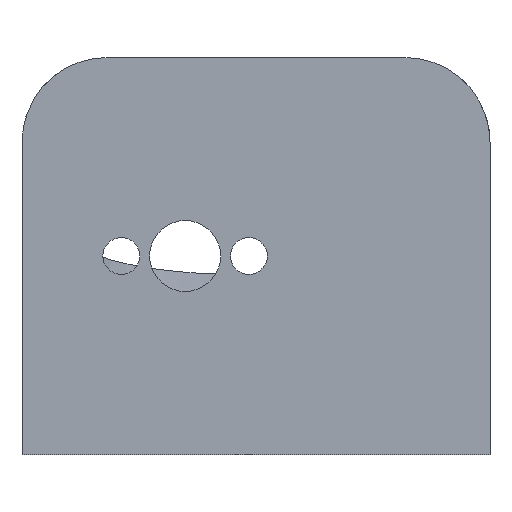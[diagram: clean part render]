
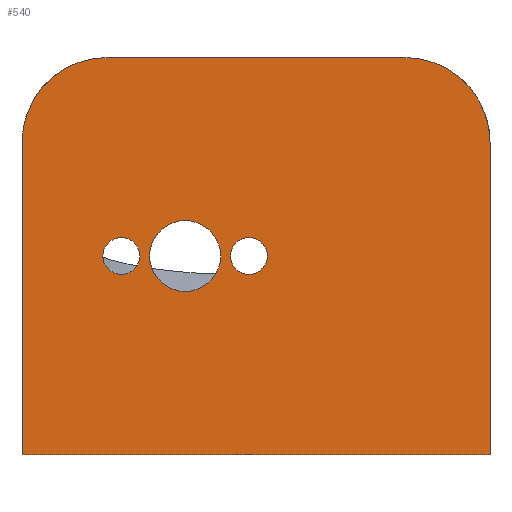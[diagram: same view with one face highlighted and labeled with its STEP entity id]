
A CAD part, front view. The second image highlights one B-rep face of the part: STEP entity #540.
In plain terms, the highlighted planar face has unit normal (0, -1, 0).
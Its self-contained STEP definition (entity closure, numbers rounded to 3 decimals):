
#40=FACE_BOUND('',#89,.T.);
#41=FACE_BOUND('',#90,.T.);
#42=FACE_BOUND('',#91,.T.);
#53=FACE_OUTER_BOUND('',#88,.T.);
#88=EDGE_LOOP('',(#397,#398,#399,#400,#401,#402));
#89=EDGE_LOOP('',(#403));
#90=EDGE_LOOP('',(#404));
#91=EDGE_LOOP('',(#405));
#131=LINE('',#829,#178);
#134=LINE('',#837,#181);
#136=LINE('',#843,#183);
#139=LINE('',#855,#186);
#178=VECTOR('',#664,22.);
#181=VECTOR('',#671,33.);
#183=VECTOR('',#677,22.);
#186=VECTOR('',#682,21.);
#220=CIRCLE('',#594,6.);
#221=CIRCLE('',#595,6.);
#222=CIRCLE('',#596,1.3);
#223=CIRCLE('',#597,2.5);
#224=CIRCLE('',#598,1.3);
#252=VERTEX_POINT('',#826);
#253=VERTEX_POINT('',#828);
#256=VERTEX_POINT('',#836);
#258=VERTEX_POINT('',#842);
#261=VERTEX_POINT('',#853);
#262=VERTEX_POINT('',#854);
#265=VERTEX_POINT('',#864);
#266=VERTEX_POINT('',#866);
#267=VERTEX_POINT('',#868);
#303=EDGE_CURVE('',#252,#253,#131,.T.);
#307=EDGE_CURVE('',#253,#256,#134,.T.);
#310=EDGE_CURVE('',#256,#258,#136,.T.);
#314=EDGE_CURVE('',#261,#262,#139,.T.);
#318=EDGE_CURVE('',#252,#262,#220,.F.);
#319=EDGE_CURVE('',#261,#258,#221,.F.);
#320=EDGE_CURVE('',#265,#265,#222,.T.);
#321=EDGE_CURVE('',#266,#266,#223,.T.);
#322=EDGE_CURVE('',#267,#267,#224,.T.);
#397=ORIENTED_EDGE('',*,*,#303,.F.);
#398=ORIENTED_EDGE('',*,*,#318,.T.);
#399=ORIENTED_EDGE('',*,*,#314,.F.);
#400=ORIENTED_EDGE('',*,*,#319,.T.);
#401=ORIENTED_EDGE('',*,*,#310,.F.);
#402=ORIENTED_EDGE('',*,*,#307,.F.);
#403=ORIENTED_EDGE('',*,*,#320,.T.);
#404=ORIENTED_EDGE('',*,*,#321,.T.);
#405=ORIENTED_EDGE('',*,*,#322,.T.);
#521=PLANE('',#593);
#540=ADVANCED_FACE('',(#53,#40,#41,#42),#521,.F.);
#593=AXIS2_PLACEMENT_3D('',#861,#686,#687);
#594=AXIS2_PLACEMENT_3D('',#862,#688,#689);
#595=AXIS2_PLACEMENT_3D('',#863,#690,#691);
#596=AXIS2_PLACEMENT_3D('',#865,#692,#693);
#597=AXIS2_PLACEMENT_3D('',#867,#694,#695);
#598=AXIS2_PLACEMENT_3D('',#869,#696,#697);
#664=DIRECTION('',(0.,0.,-1.));
#671=DIRECTION('',(-1.,0.,0.));
#677=DIRECTION('',(0.,0.,1.));
#682=DIRECTION('',(1.,0.,0.));
#686=DIRECTION('center_axis',(0.,1.,0.));
#687=DIRECTION('ref_axis',(0.,0.,1.));
#688=DIRECTION('center_axis',(0.,1.,0.));
#689=DIRECTION('ref_axis',(0.,0.,1.));
#690=DIRECTION('center_axis',(0.,1.,0.));
#691=DIRECTION('ref_axis',(0.,0.,1.));
#692=DIRECTION('center_axis',(0.,1.,0.));
#693=DIRECTION('ref_axis',(0.,0.,1.));
#694=DIRECTION('center_axis',(0.,1.,0.));
#695=DIRECTION('ref_axis',(0.,0.,1.));
#696=DIRECTION('center_axis',(0.,1.,0.));
#697=DIRECTION('ref_axis',(0.,0.,1.));
#826=CARTESIAN_POINT('',(16.5,0.,8.));
#828=CARTESIAN_POINT('',(16.5,0.,-14.));
#829=CARTESIAN_POINT('',(16.5,0.,8.));
#836=CARTESIAN_POINT('',(-16.5,0.,-14.));
#837=CARTESIAN_POINT('',(16.5,0.,-14.));
#842=CARTESIAN_POINT('',(-16.5,0.,8.));
#843=CARTESIAN_POINT('',(-16.5,0.,-14.));
#853=CARTESIAN_POINT('',(-10.5,0.,14.));
#854=CARTESIAN_POINT('',(10.5,0.,14.));
#855=CARTESIAN_POINT('',(-10.5,0.,14.));
#861=CARTESIAN_POINT('Origin',(0.,0.,0.));
#862=CARTESIAN_POINT('Origin',(10.5,0.,8.));
#863=CARTESIAN_POINT('Origin',(-10.5,0.,8.));
#864=CARTESIAN_POINT('',(-0.5,0.,-1.3));
#865=CARTESIAN_POINT('Origin',(-0.5,0.,0.));
#866=CARTESIAN_POINT('',(-5.,0.,-2.5));
#867=CARTESIAN_POINT('Origin',(-5.,0.,0.));
#868=CARTESIAN_POINT('',(-9.5,0.,-1.3));
#869=CARTESIAN_POINT('Origin',(-9.5,0.,0.));
